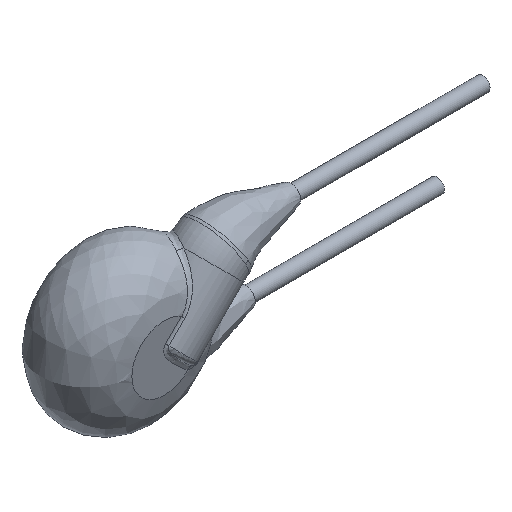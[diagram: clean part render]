
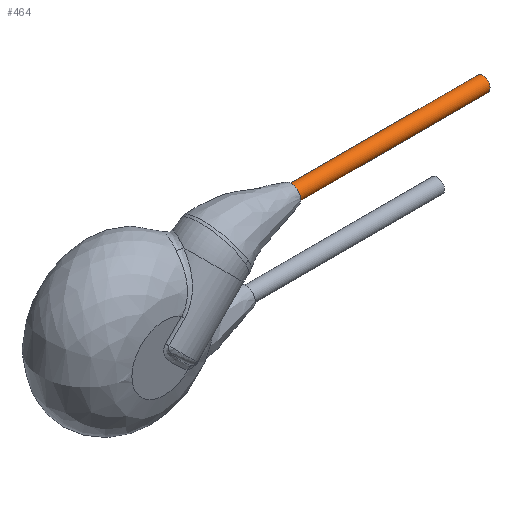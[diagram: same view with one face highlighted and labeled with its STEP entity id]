
A CAD part, isometric view. The second image highlights one B-rep face of the part: STEP entity #464.
In plain terms, the highlighted cylindrical face has radius 0.3 mm (diameter 0.6 mm), a full revolution.
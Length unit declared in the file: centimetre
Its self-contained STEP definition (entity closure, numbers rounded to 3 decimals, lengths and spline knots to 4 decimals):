
#32=CYLINDRICAL_SURFACE('',#508,0.03);
#80=FACE_BOUND('',#145,.T.);
#109=FACE_OUTER_BOUND('',#144,.T.);
#144=EDGE_LOOP('',(#393));
#145=EDGE_LOOP('',(#394));
#153=CIRCLE('',#475,0.03);
#176=CIRCLE('',#509,0.03);
#181=VERTEX_POINT('',#617);
#214=VERTEX_POINT('',#1630);
#219=EDGE_CURVE('',#181,#181,#153,.T.);
#275=EDGE_CURVE('',#214,#214,#176,.T.);
#393=ORIENTED_EDGE('',*,*,#219,.T.);
#394=ORIENTED_EDGE('',*,*,#275,.F.);
#464=ADVANCED_FACE('',(#109,#80),#32,.T.);
#475=AXIS2_PLACEMENT_3D('',#618,#526,#527);
#508=AXIS2_PLACEMENT_3D('',#1629,#596,#597);
#509=AXIS2_PLACEMENT_3D('',#1631,#598,#599);
#526=DIRECTION('center_axis',(1.,0.,0.));
#527=DIRECTION('ref_axis',(0.,1.,0.));
#596=DIRECTION('center_axis',(-1.,0.,0.));
#597=DIRECTION('ref_axis',(0.,1.,0.));
#598=DIRECTION('center_axis',(1.,0.,0.));
#599=DIRECTION('ref_axis',(0.,1.,0.));
#617=CARTESIAN_POINT('',(0.625,-0.06,0.2312));
#618=CARTESIAN_POINT('Origin',(0.625,-0.03,0.2312));
#1629=CARTESIAN_POINT('Origin',(1.425,-0.03,0.2312));
#1630=CARTESIAN_POINT('',(1.425,-0.06,0.2312));
#1631=CARTESIAN_POINT('Origin',(1.425,-0.03,0.2312));
